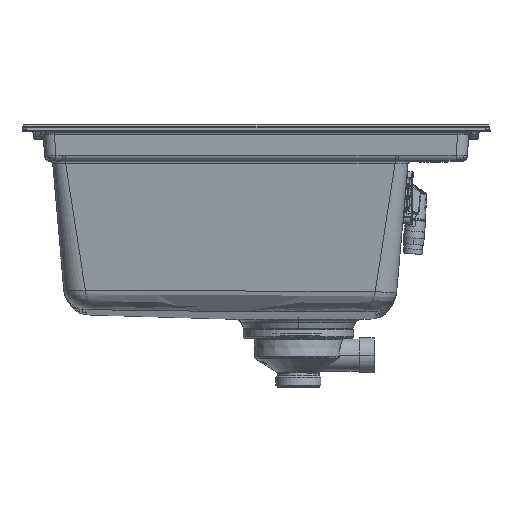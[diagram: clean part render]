
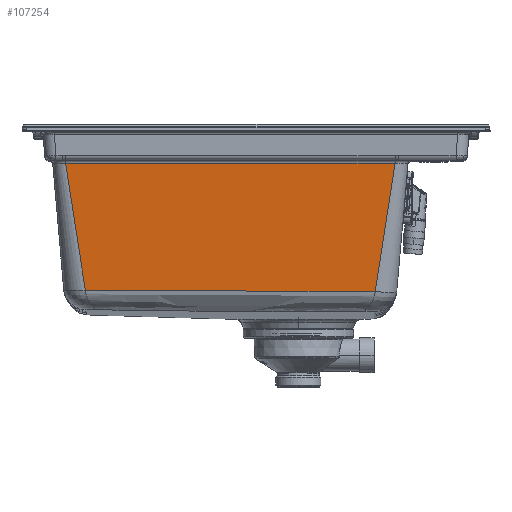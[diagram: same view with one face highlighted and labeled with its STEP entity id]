
A CAD part, top view. The second image highlights one B-rep face of the part: STEP entity #107254.
In plain terms, the highlighted planar face has unit normal (0, -0.087, 0.996).
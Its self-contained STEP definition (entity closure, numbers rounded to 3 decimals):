
#5754 = EDGE_CURVE ( 'NONE', #90336, #119463, #83884, .T. ) ;
#5802 = PLANE ( 'NONE',  #167765 ) ;
#6168 = CARTESIAN_POINT ( 'NONE',  ( 377.353, -172.632, -44.811 ) ) ;
#14689 = CARTESIAN_POINT ( 'NONE',  ( 398.556, -35.651, -32.827 ) ) ;
#17456 = CARTESIAN_POINT ( 'NONE',  ( 46.031, -35.651, -32.827 ) ) ;
#18258 = EDGE_LOOP ( 'NONE', ( #151106, #106369, #119528, #25930 ) ) ;
#22764 = CARTESIAN_POINT ( 'NONE',  ( 398.556, -35.651, -32.827 ) ) ;
#24830 = CARTESIAN_POINT ( 'NONE',  ( 60.632, -125.822, -40.716 ) ) ;
#25930 = ORIENTED_EDGE ( 'NONE', *, *, #150595, .F. ) ;
#39209 = CARTESIAN_POINT ( 'NONE',  ( 67.648, -170.908, -44.66 ) ) ;
#44530 = B_SPLINE_CURVE_WITH_KNOTS ( 'NONE', 3,
 ( #22764, #90270, #157726, #6168 ),
 .UNSPECIFIED., .F., .F.,
 ( 4, 4 ),
 ( -0.139, 0. ),
 .UNSPECIFIED. ) ;
#53567 = EDGE_CURVE ( 'NONE', #90336, #113174, #44530, .T. ) ;
#56941 = CARTESIAN_POINT ( 'NONE',  ( 377.353, -172.632, -44.811 ) ) ;
#58924 = FACE_OUTER_BOUND ( 'NONE', #18258, .T. ) ;
#66420 = VECTOR ( 'NONE', #117088, 1000. ) ;
#73129 = VERTEX_POINT ( 'NONE', #39209 ) ;
#83884 = LINE ( 'NONE', #17456, #66420 ) ;
#86872 = EDGE_CURVE ( 'NONE', #73129, #119463, #203914, .T. ) ;
#90270 = CARTESIAN_POINT ( 'NONE',  ( 391.489, -81.312, -36.822 ) ) ;
#90336 = VERTEX_POINT ( 'NONE', #14689 ) ;
#102029 = CARTESIAN_POINT ( 'NONE',  ( 46.599, -35.651, -32.827 ) ) ;
#106369 = ORIENTED_EDGE ( 'NONE', *, *, #5754, .T. ) ;
#107254 = ADVANCED_FACE ( 'NONE', ( #58924 ), #5802, .F. ) ;
#107610 = DIRECTION ( 'NONE',  ( 0., 0.087, -0.996 ) ) ;
#109777 = CARTESIAN_POINT ( 'NONE',  ( 405.233, -24.697, -31.869 ) ) ;
#110005 = CARTESIAN_POINT ( 'NONE',  ( 67.648, -170.908, -44.66 ) ) ;
#113174 = VERTEX_POINT ( 'NONE', #119047 ) ;
#117088 = DIRECTION ( 'NONE',  ( -1., 0., 0. ) ) ;
#119047 = CARTESIAN_POINT ( 'NONE',  ( 377.353, -172.632, -44.811 ) ) ;
#119463 = VERTEX_POINT ( 'NONE', #102029 ) ;
#119528 = ORIENTED_EDGE ( 'NONE', *, *, #86872, .F. ) ;
#124414 = CARTESIAN_POINT ( 'NONE',  ( 67.648, -170.908, -44.66 ) ) ;
#139946 = CARTESIAN_POINT ( 'NONE',  ( 46.599, -35.651, -32.827 ) ) ;
#150595 = EDGE_CURVE ( 'NONE', #113174, #73129, #189792, .T. ) ;
#151106 = ORIENTED_EDGE ( 'NONE', *, *, #53567, .F. ) ;
#157726 = CARTESIAN_POINT ( 'NONE',  ( 384.421, -126.972, -40.817 ) ) ;
#167765 = AXIS2_PLACEMENT_3D ( 'NONE', #109777, #107610, #175129 ) ;
#174231 = CARTESIAN_POINT ( 'NONE',  ( 170.883, -171.483, -44.711 ) ) ;
#175129 = DIRECTION ( 'NONE',  ( 0., 0.996, 0.087 ) ) ;
#189792 = B_SPLINE_CURVE_WITH_KNOTS ( 'NONE', 3,
 ( #56941, #190831, #174231, #124414 ),
 .UNSPECIFIED., .F., .F.,
 ( 4, 4 ),
 ( 0., 1. ),
 .UNSPECIFIED. ) ;
#190831 = CARTESIAN_POINT ( 'NONE',  ( 274.118, -172.057, -44.761 ) ) ;
#203914 = B_SPLINE_CURVE_WITH_KNOTS ( 'NONE', 3,
 ( #110005, #24830, #211855, #139946 ),
 .UNSPECIFIED., .F., .F.,
 ( 4, 4 ),
 ( -0.087, 0.05 ),
 .UNSPECIFIED. ) ;
#211855 = CARTESIAN_POINT ( 'NONE',  ( 53.615, -80.737, -36.772 ) ) ;
